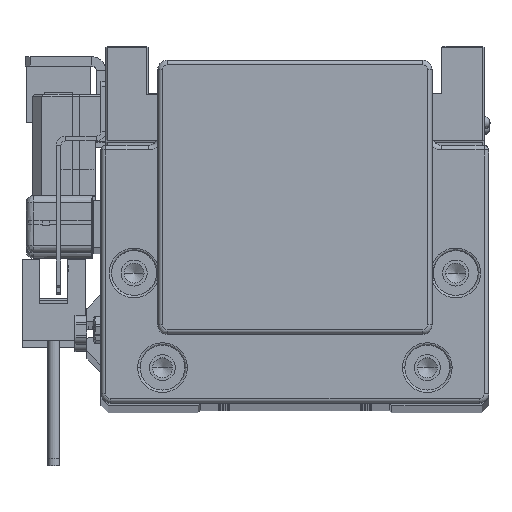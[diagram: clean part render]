
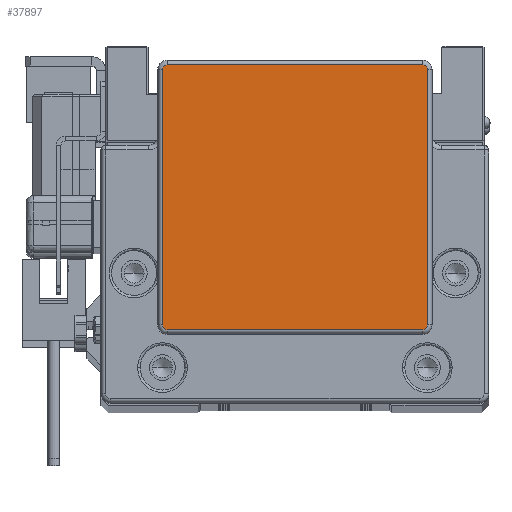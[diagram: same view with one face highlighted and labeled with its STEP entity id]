
A CAD part, top view. The second image highlights one B-rep face of the part: STEP entity #37897.
In plain terms, the highlighted planar face has unit normal (0, 0, 1).
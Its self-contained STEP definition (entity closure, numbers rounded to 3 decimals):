
#261 = CIRCLE ( 'NONE', #44345, 1. ) ;
#1392 = CARTESIAN_POINT ( 'NONE',  ( 27., 34.25, 17. ) ) ;
#1910 = CARTESIAN_POINT ( 'NONE',  ( -28., 34.25, 17. ) ) ;
#2019 = ORIENTED_EDGE ( 'NONE', *, *, #16239, .T. ) ;
#2335 = CARTESIAN_POINT ( 'NONE',  ( 27., -20.75, 17. ) ) ;
#2749 = DIRECTION ( 'NONE',  ( 1., 0., 0. ) ) ;
#3455 = VERTEX_POINT ( 'NONE', #2335 ) ;
#5441 = DIRECTION ( 'NONE',  ( 1., 0., 0. ) ) ;
#5607 = CIRCLE ( 'NONE', #39153, 1. ) ;
#6041 = CARTESIAN_POINT ( 'NONE',  ( -27., -19.75, 17. ) ) ;
#6518 = DIRECTION ( 'NONE',  ( 0., 0., 1. ) ) ;
#7981 = DIRECTION ( 'NONE',  ( 0., -1., 0. ) ) ;
#9576 = CARTESIAN_POINT ( 'NONE',  ( -27., 35.25, 17. ) ) ;
#11894 = CARTESIAN_POINT ( 'NONE',  ( 27., 35.25, 17. ) ) ;
#13640 = EDGE_CURVE ( 'NONE', #15389, #32637, #46180, .T. ) ;
#14037 = DIRECTION ( 'NONE',  ( 0., 0., 1. ) ) ;
#14084 = DIRECTION ( 'NONE',  ( -1., 0., 0. ) ) ;
#14762 = DIRECTION ( 'NONE',  ( 0., 0., 1. ) ) ;
#15047 = CIRCLE ( 'NONE', #22724, 1. ) ;
#15389 = VERTEX_POINT ( 'NONE', #11894 ) ;
#16239 = EDGE_CURVE ( 'NONE', #53774, #3455, #57065, .T. ) ;
#16577 = CARTESIAN_POINT ( 'NONE',  ( -27., 35.25, 17. ) ) ;
#17756 = VECTOR ( 'NONE', #14084, 1000. ) ;
#20221 = DIRECTION ( 'NONE',  ( 0., 0., 1. ) ) ;
#20926 = VERTEX_POINT ( 'NONE', #43094 ) ;
#21372 = ORIENTED_EDGE ( 'NONE', *, *, #55464, .T. ) ;
#22098 = VECTOR ( 'NONE', #7981, 1000. ) ;
#22724 = AXIS2_PLACEMENT_3D ( 'NONE', #48397, #20221, #25621 ) ;
#23831 = ORIENTED_EDGE ( 'NONE', *, *, #43815, .T. ) ;
#24834 = DIRECTION ( 'NONE',  ( 1., 0., 0. ) ) ;
#25000 = EDGE_CURVE ( 'NONE', #58940, #20926, #44840, .T. ) ;
#25621 = DIRECTION ( 'NONE',  ( 1., 0., 0. ) ) ;
#26714 = DIRECTION ( 'NONE',  ( 1., 0., 0. ) ) ;
#28964 = CARTESIAN_POINT ( 'NONE',  ( 28., 34.25, 17. ) ) ;
#31632 = ORIENTED_EDGE ( 'NONE', *, *, #25000, .T. ) ;
#32069 = EDGE_CURVE ( 'NONE', #20926, #53774, #38885, .T. ) ;
#32334 = DIRECTION ( 'NONE',  ( 1., 0., 0. ) ) ;
#32637 = VERTEX_POINT ( 'NONE', #16577 ) ;
#33344 = PLANE ( 'NONE',  #45821 ) ;
#33680 = ORIENTED_EDGE ( 'NONE', *, *, #36415, .T. ) ;
#34674 = LINE ( 'NONE', #40042, #35581 ) ;
#34676 = ORIENTED_EDGE ( 'NONE', *, *, #13640, .T. ) ;
#35126 = CARTESIAN_POINT ( 'NONE',  ( 27., -20.75, 17. ) ) ;
#35581 = VECTOR ( 'NONE', #39742, 1000. ) ;
#36415 = EDGE_CURVE ( 'NONE', #32637, #58940, #15047, .T. ) ;
#37897 = ADVANCED_FACE ( 'NONE', ( #46554 ), #33344, .T. ) ;
#38231 = EDGE_CURVE ( 'NONE', #3455, #55621, #5607, .T. ) ;
#38885 = CIRCLE ( 'NONE', #59022, 1. ) ;
#39153 = AXIS2_PLACEMENT_3D ( 'NONE', #50090, #58532, #26714 ) ;
#39742 = DIRECTION ( 'NONE',  ( 0., 1., 0. ) ) ;
#40042 = CARTESIAN_POINT ( 'NONE',  ( 28., 34.25, 17. ) ) ;
#40903 = CARTESIAN_POINT ( 'NONE',  ( -27., -20.75, 17. ) ) ;
#41797 = CARTESIAN_POINT ( 'NONE',  ( 28., -19.75, 17. ) ) ;
#43094 = CARTESIAN_POINT ( 'NONE',  ( -28., -19.75, 17. ) ) ;
#43815 = EDGE_CURVE ( 'NONE', #49662, #15389, #261, .T. ) ;
#44345 = AXIS2_PLACEMENT_3D ( 'NONE', #1392, #6518, #24834 ) ;
#44840 = LINE ( 'NONE', #50230, #22098 ) ;
#45821 = AXIS2_PLACEMENT_3D ( 'NONE', #6041, #14762, #5441 ) ;
#46180 = LINE ( 'NONE', #9576, #17756 ) ;
#46519 = EDGE_LOOP ( 'NONE', ( #34676, #33680, #31632, #56152, #2019, #52355, #21372, #23831 ) ) ;
#46554 = FACE_OUTER_BOUND ( 'NONE', #46519, .T. ) ;
#48397 = CARTESIAN_POINT ( 'NONE',  ( -27., 34.25, 17. ) ) ;
#49662 = VERTEX_POINT ( 'NONE', #28964 ) ;
#50090 = CARTESIAN_POINT ( 'NONE',  ( 27., -19.75, 17. ) ) ;
#50230 = CARTESIAN_POINT ( 'NONE',  ( -28., -19.75, 17. ) ) ;
#51390 = VECTOR ( 'NONE', #2749, 1000. ) ;
#52355 = ORIENTED_EDGE ( 'NONE', *, *, #38231, .T. ) ;
#53774 = VERTEX_POINT ( 'NONE', #40903 ) ;
#55131 = CARTESIAN_POINT ( 'NONE',  ( -27., -19.75, 17. ) ) ;
#55464 = EDGE_CURVE ( 'NONE', #55621, #49662, #34674, .T. ) ;
#55621 = VERTEX_POINT ( 'NONE', #41797 ) ;
#56152 = ORIENTED_EDGE ( 'NONE', *, *, #32069, .T. ) ;
#57065 = LINE ( 'NONE', #35126, #51390 ) ;
#58532 = DIRECTION ( 'NONE',  ( 0., 0., 1. ) ) ;
#58940 = VERTEX_POINT ( 'NONE', #1910 ) ;
#59022 = AXIS2_PLACEMENT_3D ( 'NONE', #55131, #14037, #32334 ) ;
